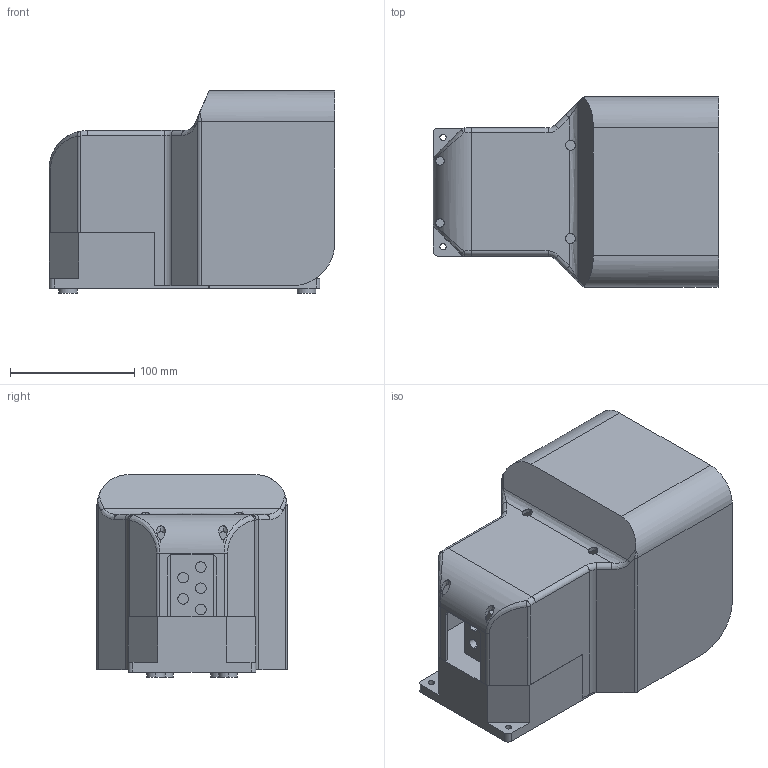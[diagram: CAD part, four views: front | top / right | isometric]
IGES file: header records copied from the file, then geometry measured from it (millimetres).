
Global section: file name: No Iges File Name specified; native system: AutoDesk Inventor R11.0; preprocessor: AutoDesk Inventor Iges Exporter R11.0; author: No Author specified; organization: No Organization specified; date: 20061219.114355; units: millimetre
Bounding box: 230 x 153 x 163 mm (x, y, z)
Volume: 1031843.6 mm3; surface area: 294217.5 mm2
Topology: 2 solids, 2 shells, 200 faces, 532 edges, 342 vertices
Faces by surface type: plane 88, cylinder 38, bspline 38, revolution 30, torus 4, sphere 2
